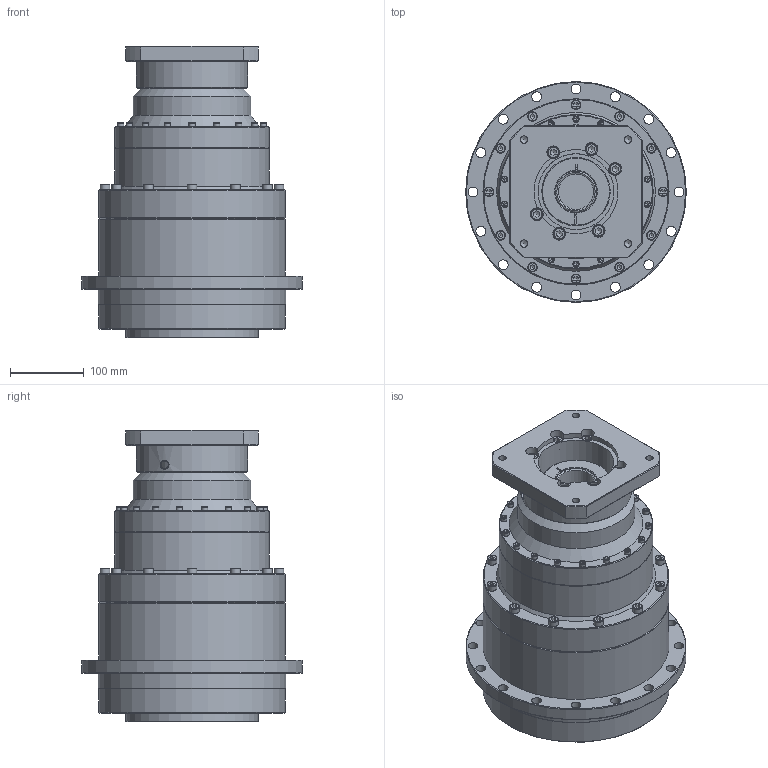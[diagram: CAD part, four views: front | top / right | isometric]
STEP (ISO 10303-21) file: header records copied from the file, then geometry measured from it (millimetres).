
FILE_DESCRIPTION((''),'2;1');
FILE_NAME('D:\유성\유성\도면\3D\2. 홈페이지용 3D 도면 (ipt)\외부도\SPIFH220\SPIFH220 DOWN\SPIFH220D SERIES (2 STAGE)_Shrinkwrap_1.stp','2014-05-08T19:31:06',('nagyu'),(''),'Autodesk Inventor 2013','Autodesk Inventor 2013','');
FILE_SCHEMA(('AUTOMOTIVE_DESIGN { 1 0 10303 214 1 1 1 1 }'));
Length unit declared in the file: millimetre
Products named in the file (1): SPIFH220D SERIES (2 STAGE)_Shrinkwrap_1
Bounding box: 300 x 300 x 396.5 mm (x, y, z)
Volume: 14093966.1 mm3; surface area: 683087 mm2
Topology: 1 solids, 53 shells, 795 faces, 1814 edges, 1172 vertices
Faces by surface type: plane 400, cylinder 213, cone 102, torus 80
Full cylindrical faces by diameter (mm): 5 x18, 5.5 x18, 6.647 x12, 8 x12, 8.5 x18, 9 x12, 10 x6, 10.106 x4, 10.2 x1, 11 x6, 12 x2, 13 x12, 13.5 x16, 13.835 x12, 16 x6, 17.5 x6, 24 x12, 48 x1, 53.5 x1, 64.8 x1, 100 x1, 103 x1, 109 x2, 151 x1, 160 x1, 180 x3, 185.2 x1, 210 x2, 220 x2, 224.8 x1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
Entity records: 19593 total; most frequent: CARTESIAN_POINT 3732, DIRECTION 3186, ORIENTED_EDGE 2584, AXIS2_PLACEMENT_3D 1344, EDGE_LOOP 1324, EDGE_CURVE 1292, VERTEX_POINT 1014, FACE_OUTER_BOUND 795
